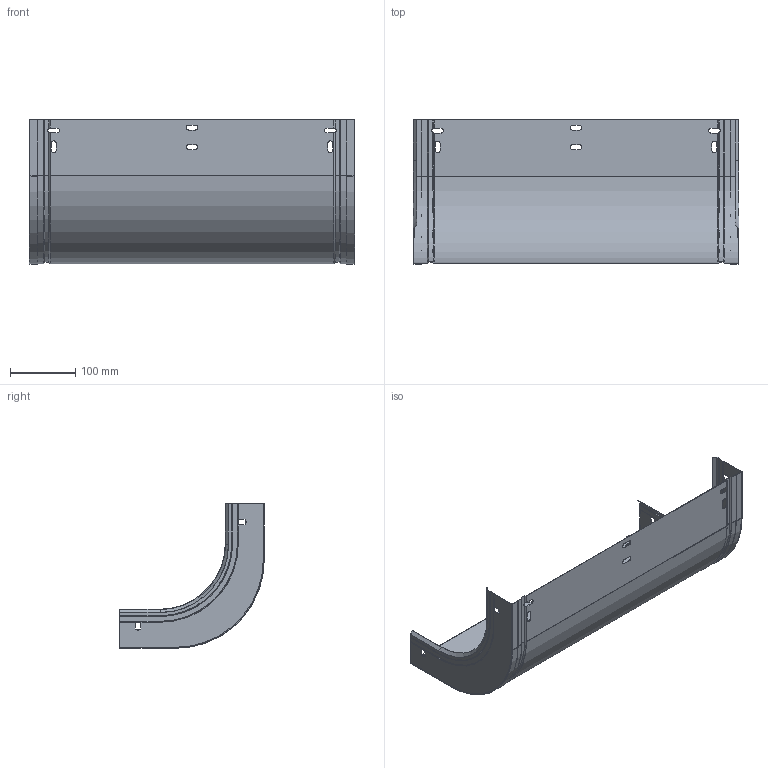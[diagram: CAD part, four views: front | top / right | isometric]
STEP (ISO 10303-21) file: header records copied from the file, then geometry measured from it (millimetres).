
FILE_DESCRIPTION (( 'STEP AP203' ), '1' );
FILE_NAME ('ERE_CONCAVA 500x60.step', '2023-07-27T18:53:47', ( '' ), ( '' ), 'SwSTEP 2.0', 'SolidWorks 2022', '' );
FILE_SCHEMA (( 'CONFIG_CONTROL_DESIGN' ));
Length unit declared in the file: millimetre
Products named in the file (3): ERE_CONCAVA 500x60; ERE_LATERAL CC_60; ERE_BASE CC_500x60
Assembly tree (3 placements, depth 2):
  ERE_CONCAVA 500x60
    ERE_BASE CC_500x60
    ERE_LATERAL CC_60  x2
Bounding box: 500 x 222 x 222 mm (x, y, z)
Volume: 194923 mm3; surface area: 490576 mm2
Topology: 3 solids, 3 shells, 234 faces, 642 edges, 402 vertices
Faces by surface type: plane 146, cylinder 62, cone 22, torus 4
Entity records: 6006 total; most frequent: CARTESIAN_POINT 1036, ORIENTED_EDGE 988, DIRECTION 969, EDGE_CURVE 494, VECTOR 353, LINE 353, VERTEX_POINT 311, AXIS2_PLACEMENT_3D 308
